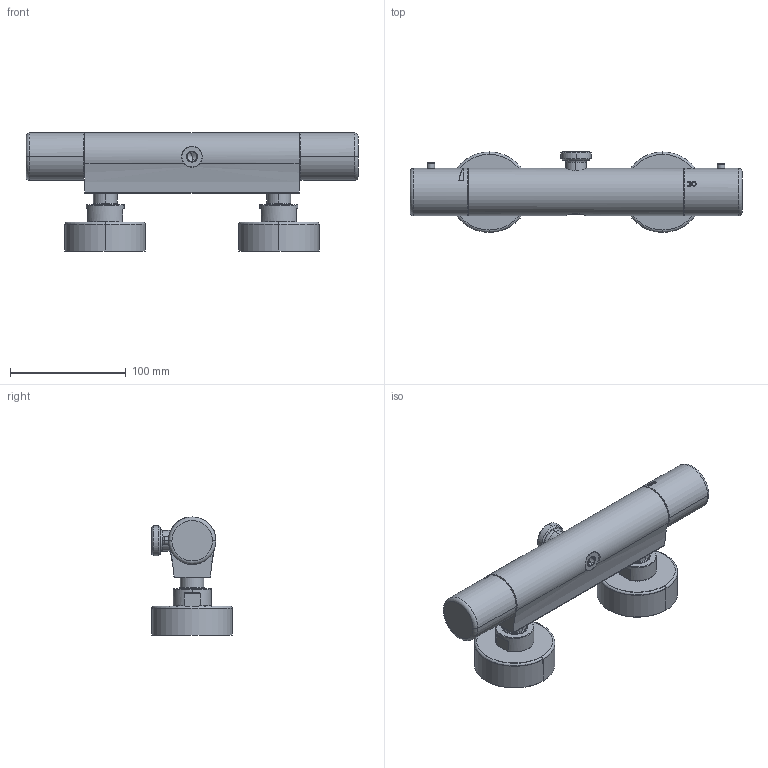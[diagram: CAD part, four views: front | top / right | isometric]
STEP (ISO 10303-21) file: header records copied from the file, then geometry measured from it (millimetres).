
FILE_DESCRIPTION((''),'2;1');
FILE_NAME('F4275_3_2017_ASM_6_SW0001','2018-06-15T',('ivanv'),(''),'CREO PARAMETRIC BY PTC INC, 2016260','CREO PARAMETRIC BY PTC INC, 2016260','');
FILE_SCHEMA(('CONFIG_CONTROL_DESIGN'));
Length unit declared in the file: millimetre
Products named in the file (1): F4275_3_2017_ASM_6_SW0001
Bounding box: 286.9 x 69.75 x 102 mm (x, y, z)
Volume: 205524.4 mm3; surface area: 166004.2 mm2
Topology: 7 solids, 7 shells, 2202 faces, 6124 edges, 3996 vertices
Faces by surface type: plane 1152, cylinder 445, extrusion 221, torus 186, cone 117, bspline 57, sphere 24
Entity records: 82661 total; most frequent: CARTESIAN_POINT 28087, ORIENTED_EDGE 12196, DIRECTION 10238, EDGE_CURVE 6098, VERTEX_POINT 3996, AXIS2_PLACEMENT_3D 3565, VECTOR 3108, LINE 2887
